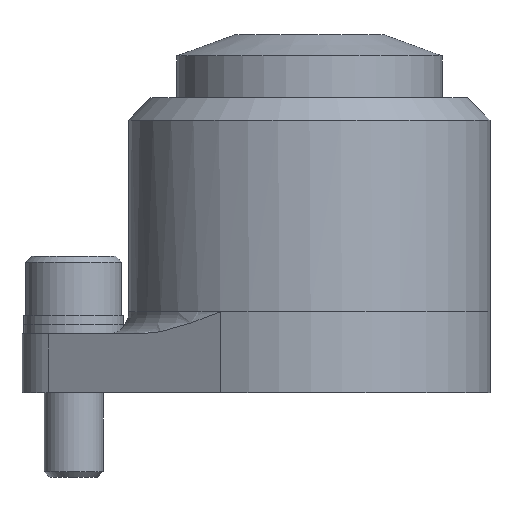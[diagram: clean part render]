
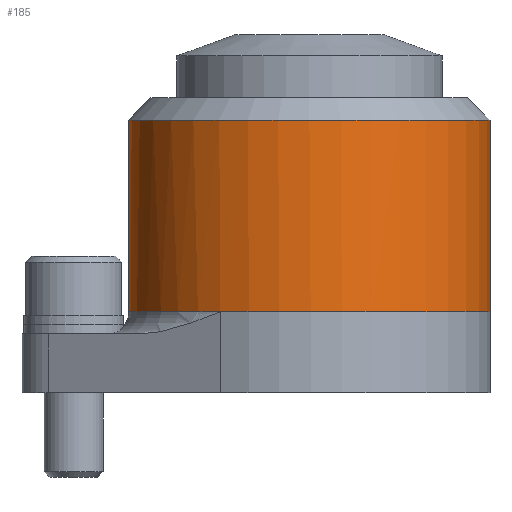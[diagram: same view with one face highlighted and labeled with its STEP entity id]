
A CAD part, front view. The second image highlights one B-rep face of the part: STEP entity #185.
In plain terms, the highlighted cylindrical face has radius 24.5 mm (diameter 49 mm), a partial arc.
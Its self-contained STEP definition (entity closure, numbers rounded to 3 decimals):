
#185=ADVANCED_FACE('',(#298),#260,.T.);
#260=CYLINDRICAL_SURFACE('',#1338,24.5);
#298=FACE_OUTER_BOUND('',#362,.T.);
#362=EDGE_LOOP('',(#567,#568,#569,#570,#571));
#448=CIRCLE('',#1313,24.5);
#466=CIRCLE('',#1336,24.5);
#467=CIRCLE('',#1337,24.5);
#567=ORIENTED_EDGE('',*,*,#987,.T.);
#568=ORIENTED_EDGE('',*,*,#1012,.T.);
#569=ORIENTED_EDGE('',*,*,#1013,.F.);
#570=ORIENTED_EDGE('',*,*,#1010,.F.);
#571=ORIENTED_EDGE('',*,*,#1014,.T.);
#877=VERTEX_POINT('',#1889);
#878=VERTEX_POINT('',#1891);
#896=VERTEX_POINT('',#1935);
#897=VERTEX_POINT('',#1937);
#898=VERTEX_POINT('',#1939);
#987=EDGE_CURVE('',#878,#877,#448,.T.);
#1010=EDGE_CURVE('',#896,#897,#1162,.T.);
#1012=EDGE_CURVE('',#877,#898,#1163,.T.);
#1013=EDGE_CURVE('',#897,#898,#466,.T.);
#1014=EDGE_CURVE('',#896,#878,#467,.T.);
#1162=LINE('',#1936,#1240);
#1163=LINE('',#1940,#1241);
#1240=VECTOR('',#1529,1.);
#1241=VECTOR('',#1532,1.);
#1313=AXIS2_PLACEMENT_3D('',#1890,#1481,#1482);
#1336=AXIS2_PLACEMENT_3D('',#1942,#1535,#1536);
#1337=AXIS2_PLACEMENT_3D('',#1943,#1537,#1538);
#1338=AXIS2_PLACEMENT_3D('',#1944,#1539,#1540);
#1481=DIRECTION('',(0.,0.,1.));
#1482=DIRECTION('',(-1.,0.,0.));
#1529=DIRECTION('',(0.,0.,1.));
#1532=DIRECTION('',(0.,0.,1.));
#1535=DIRECTION('',(0.,0.,1.));
#1536=DIRECTION('',(0.,1.,0.));
#1537=DIRECTION('',(0.,0.,1.));
#1538=DIRECTION('',(0.,1.,0.));
#1539=DIRECTION('',(0.,0.,1.));
#1540=DIRECTION('',(0.,-1.,0.));
#1889=CARTESIAN_POINT('',(24.5,0.,11.));
#1890=CARTESIAN_POINT('',(0.,0.,11.));
#1891=CARTESIAN_POINT('',(-12.066,-21.323,11.));
#1935=CARTESIAN_POINT('',(-24.5,0.,11.));
#1936=CARTESIAN_POINT('',(-24.5,0.,37.));
#1937=CARTESIAN_POINT('',(-24.5,0.,37.));
#1939=CARTESIAN_POINT('',(24.5,0.,37.));
#1940=CARTESIAN_POINT('',(24.5,0.,37.));
#1942=CARTESIAN_POINT('',(0.,0.,37.));
#1943=CARTESIAN_POINT('',(0.,0.,11.));
#1944=CARTESIAN_POINT('',(0.,0.,0.));
